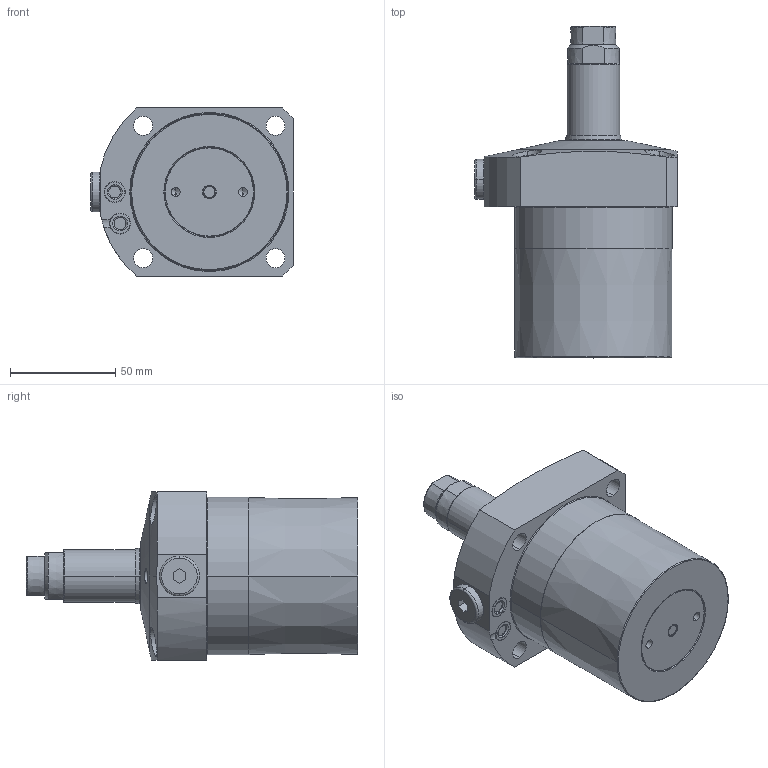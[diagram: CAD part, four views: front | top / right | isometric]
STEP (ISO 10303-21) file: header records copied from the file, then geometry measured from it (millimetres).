
FILE_DESCRIPTION(/* description */ (''),/* implementation_level */ '2;1');
FILE_NAME(/* name */ 'KFSS75-Q.stp',/* time_stamp */ '2026-02-06T10:39:08+08:00',/* author */ (''),/* organization */ (''),/* preprocessor_version */ 'ST-DEVELOPER v16.7',/* originating_system */ 'SIEMENS PLM Software NX 12.0',/* authorisation */ '');
FILE_SCHEMA (('AUTOMOTIVE_DESIGN { 1 0 10303 214 3 1 1 1 }'));
Length unit declared in the file: millimetre
Products named in the file (8): XLC-M16_contactbolt6528; XLC-M16_o-ring6421; KFSS75-Q-05-P7; KFSS75-Q-04; KFSS75-Q-02; KFSS75-Q-01; KFSS75-Q-03; LC0753-C-EQ_step
Assembly tree (8 placements, depth 3):
  LC0753-C-EQ_step
    KFSS75-Q-03
      XLC-M16_o-ring6421
      XLC-M16_contactbolt6528
    KFSS75-Q-01
    KFSS75-Q-02
    KFSS75-Q-04
    KFSS75-Q-05-P7  x2
Bounding box: 96.5 x 158 x 80 mm (x, y, z)
Volume: 508720.7 mm3; surface area: 54905.4 mm2
Topology: 7 solids, 7 shells, 243 faces, 538 edges, 322 vertices
Faces by surface type: cylinder 74, torus 60, cone 54, plane 53, bspline 2
Entity records: 7008 total; most frequent: CARTESIAN_POINT 1511, DIRECTION 1218, ORIENTED_EDGE 1008, AXIS2_PLACEMENT_3D 530, EDGE_CURVE 504, VERTEX_POINT 308, CIRCLE 292, EDGE_LOOP 266
